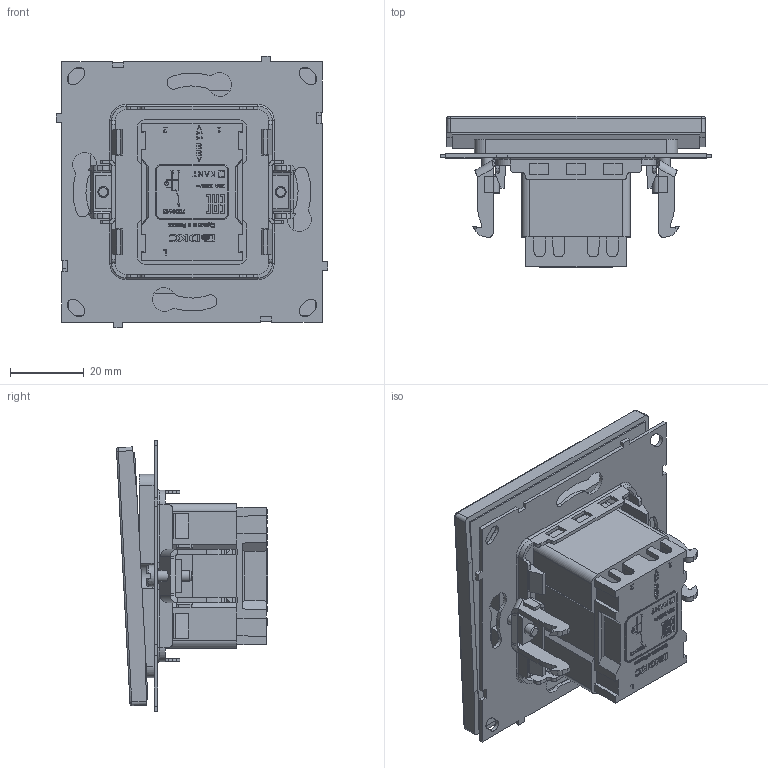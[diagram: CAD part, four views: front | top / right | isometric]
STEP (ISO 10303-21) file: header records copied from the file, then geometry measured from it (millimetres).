
FILE_DESCRIPTION (( 'STEP AP203' ), '1' );
FILE_NAME ('7000143.STEP', '2025-10-29T11:45:12', ( '' ), ( '' ), 'SwSTEP 2.0', 'SolidWorks 2022', '' );
FILE_SCHEMA (( 'CONFIG_CONTROL_DESIGN' ));
Products named in the file (1): 7000143
Bounding box: 73.5 x 40.88 x 73.5 mm (x, y, z)
Volume: 69136.9 mm3; surface area: 28061.9 mm2
Topology: 3 solids, 4 shells, 1560 faces, 4278 edges, 2800 vertices
Faces by surface type: plane 966, bspline 332, cylinder 228, torus 22, cone 12
Full cylindrical faces by diameter (mm): 3 x4, 3.3 x2
Entity records: 60861 total; most frequent: CARTESIAN_POINT 23205, ORIENTED_EDGE 8516, DIRECTION 6474, EDGE_CURVE 4258, VECTOR 3044, LINE 3044, VERTEX_POINT 2792, AXIS2_PLACEMENT_3D 1715
